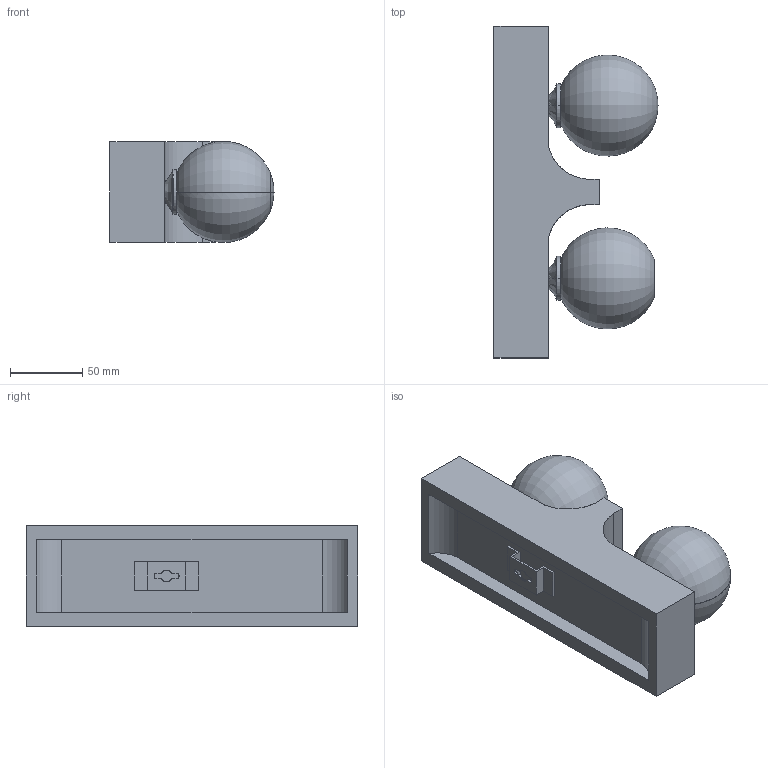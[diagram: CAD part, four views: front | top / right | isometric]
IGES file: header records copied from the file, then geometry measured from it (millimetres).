
Start section: SolidWorks IGES file using analytic representation for surfaces
Global section: file name: F:\燠隴矨\3D\2025-11\Cirra Travertine Wall Light-D7xH23cm.IGS,15; native system: HSolidWorks 2022; preprocessor: SolidWorks 2022; author: MyPC; date: 251127.190500; units: millimetre
Bounding box: 113.7 x 230 x 70 mm (x, y, z)
Surface area: 133783.8 mm2 (no closed solid volume)
Topology: 0 solids, 0 shells, 462 faces, 4514 edges, 4510 vertices
Faces by surface type: bspline 357, revolution 105
